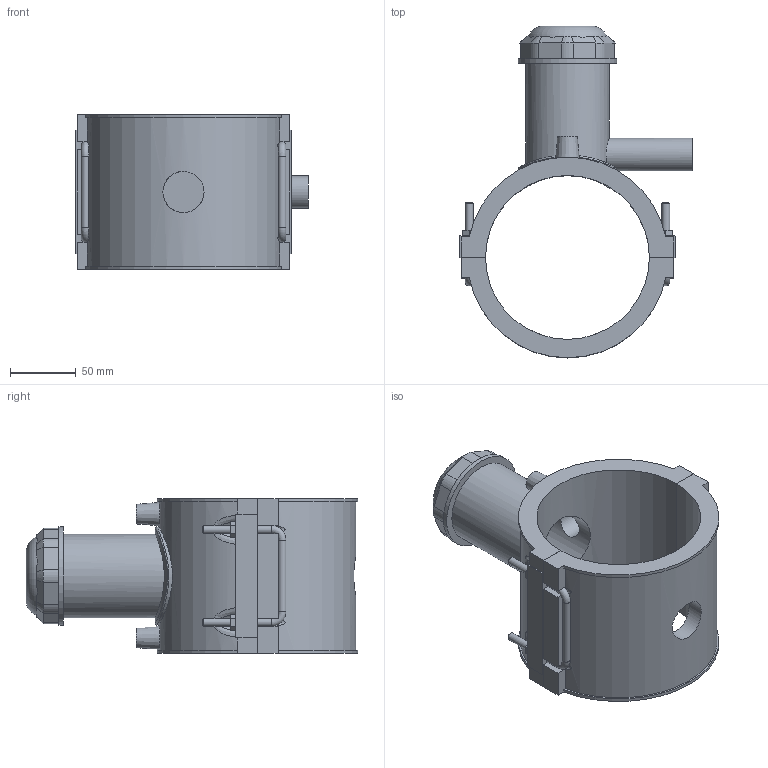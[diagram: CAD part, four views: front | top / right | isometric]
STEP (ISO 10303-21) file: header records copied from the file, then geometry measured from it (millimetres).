
FILE_DESCRIPTION(/* description */ ('PLASSON TAPPING SADDLE 125x25'),/* implementation_level */ '2;1');
FILE_NAME(/* name */ 'C:\Dropbox\KIMPROJECTS-Inventor\99-16-3568-Processing\ElectroFusion Fittings\24.01.19\496304\496304125025.ipt.stp',/* time_stamp */ '2019-01-24T12:41:30+02:00',/* author */ ('KIM'),/* organization */ (''),/* preprocessor_version */ 'ST-DEVELOPER v15.6',/* originating_system */ 'Autodesk Inventor 2015',/* authorisation */ '');
FILE_SCHEMA (('AUTOMOTIVE_DESIGN { 1 0 10303 214 3 1 1 }'));
Length unit declared in the file: millimetre
Products named in the file (1): 496304125025
Bounding box: 177 x 253 x 118 mm (x, y, z)
Volume: 854230.2 mm3; surface area: 182047.4 mm2
Topology: 1 solids, 3 shells, 208 faces, 531 edges, 343 vertices
Faces by surface type: plane 125, cylinder 55, cone 14, torus 9, bspline 5
Full cylindrical faces by diameter (mm): 4 x2, 6 x8, 10 x2, 20 x1, 25 x1, 31.36 x1, 52.5 x1, 63.75 x1, 75 x2
Entity records: 7455 total; most frequent: CARTESIAN_POINT 2543, ORIENTED_EDGE 1026, DIRECTION 953, EDGE_CURVE 503, VERTEX_POINT 337, AXIS2_PLACEMENT_3D 327, LINE 299, VECTOR 299
